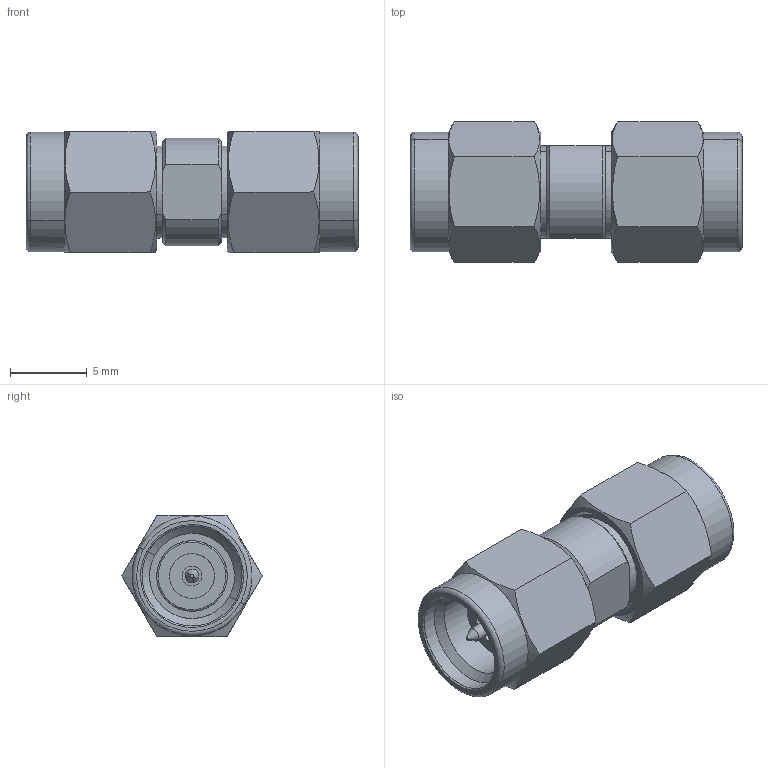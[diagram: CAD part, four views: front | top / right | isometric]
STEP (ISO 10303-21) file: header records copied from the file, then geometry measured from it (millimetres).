
FILE_DESCRIPTION(('CATIA V5 STEP Exchange'),'2;1');
FILE_NAME('F:\Work SZ\CMP 图纸\Precision Adapter\P-2.92-2.92\P-2.92M-2.92M-198\P-2.92M-2.92M-198(REV.A).stp','2013-07-15T07:23:27+00:00',('none'),('none'),'CATIA Version 5 Release 17 (IN-10)','CATIA V5 STEP AP203','none');
FILE_SCHEMA(('CONFIG_CONTROL_DESIGN'));
Length unit declared in the file: millimetre
Products named in the file (1): P-2.92M-2.92M-198
Bounding box: 21.6 x 9.12 x 7.9 mm (x, y, z)
Volume: 771.9 mm3; surface area: 1110.1 mm2
Topology: 1 solids, 1 shells, 116 faces, 260 edges, 160 vertices
Faces by surface type: cylinder 38, plane 34, cone 32, torus 12
Entity records: 3923 total; most frequent: CARTESIAN_POINT 1644, ORIENTED_EDGE 520, DIRECTION 327, EDGE_CURVE 260, VERTEX_POINT 160, AXIS2_PLACEMENT_3D 156, EDGE_LOOP 130, ADVANCED_FACE 116
